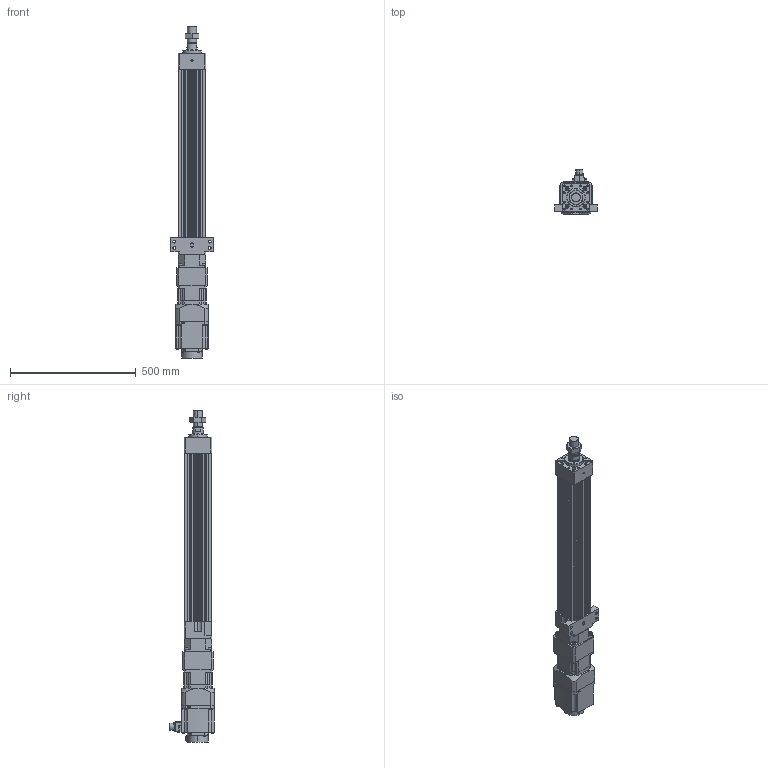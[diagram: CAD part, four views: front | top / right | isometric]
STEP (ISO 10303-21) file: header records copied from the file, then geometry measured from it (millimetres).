
FILE_DESCRIPTION (( 'STEP AP203' ), '1' );
FILE_NAME ('HES110NS(HS)-S500-W015G00-M-FFC.STEP', '2023-01-28T05:22:49', ( 'tms' ), ( '' ), 'SwSTEP 2.0', 'SolidWorks 2013', '' );
FILE_SCHEMA (( 'CONFIG_CONTROL_DESIGN' ));
Length unit declared in the file: millimetre
Products named in the file (8): M36X1.5P; HES110NS(HS)-S500-W015G00-M-FFC; HES110 ROD M ST500; HES110-S500-G120-FFC; AB1151; AB115-003[HG-SR152]; P0401400706; HG-SR152
Assembly tree (7 placements, depth 3):
  HES110NS(HS)-S500-W015G00-M-FFC
    HES110-S500-G120-FFC
    HES110 ROD M ST500
    M36X1.5P
    AB115-003[HG-SR152]
      AB1151
      P0401400706
    HG-SR152
Bounding box: 170 x 177.49 x 1321.5 mm (x, y, z)
Volume: 8472581.7 mm3; surface area: 1196321 mm2
Topology: 4 solids, 15 shells, 1222 faces, 3083 edges, 1988 vertices
Faces by surface type: plane 557, cylinder 549, cone 104, bspline 8, torus 4
Entity records: 38313 total; most frequent: CARTESIAN_POINT 7246, DIRECTION 6648, ORIENTED_EDGE 6070, EDGE_CURVE 3045, AXIS2_PLACEMENT_3D 2450, VERTEX_POINT 1988, VECTOR 1748, LINE 1748
